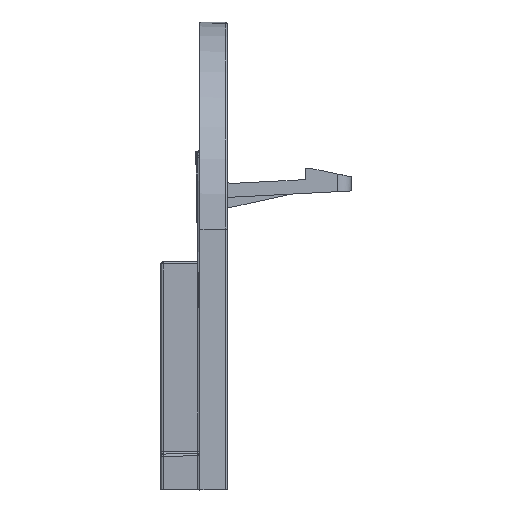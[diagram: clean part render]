
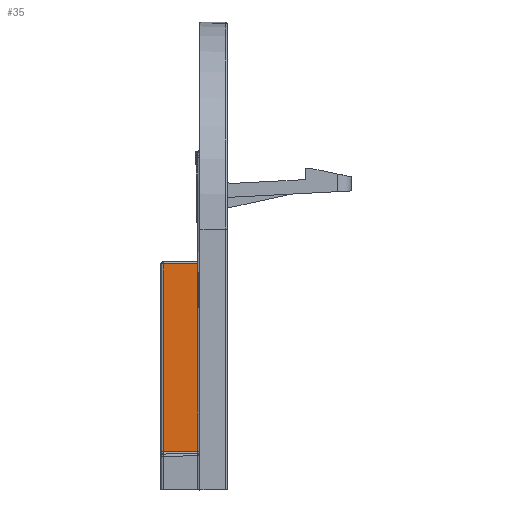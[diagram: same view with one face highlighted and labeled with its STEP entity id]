
A CAD part, front view. The second image highlights one B-rep face of the part: STEP entity #35.
In plain terms, the highlighted planar face has unit normal (-0.018, -1, 0).
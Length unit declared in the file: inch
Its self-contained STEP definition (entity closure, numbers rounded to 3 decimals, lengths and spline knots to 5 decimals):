
#35 = ADVANCED_FACE ( 'NONE', ( #5958 ), #2902, .T. ) ;
#58 = DIRECTION ( 'NONE',  ( 1., -0.017, 0.017 ) ) ;
#100 = CARTESIAN_POINT ( 'NONE',  ( 5.52397, 3.22868, 1.94888 ) ) ;
#189 = VECTOR ( 'NONE', #58, 39.37008 ) ;
#235 = EDGE_CURVE ( 'NONE', #2931, #4322, #3602, .T. ) ;
#525 = LINE ( 'NONE', #2908, #2495 ) ;
#613 = CARTESIAN_POINT ( 'NONE',  ( 5.53372, 3.22851, 0.33448 ) ) ;
#1054 = ORIENTED_EDGE ( 'NONE', *, *, #5762, .T. ) ;
#1596 = EDGE_LOOP ( 'NONE', ( #7434, #1877, #2824, #1054 ) ) ;
#1735 = DIRECTION ( 'NONE',  ( -1., 0.017, -0.017 ) ) ;
#1877 = ORIENTED_EDGE ( 'NONE', *, *, #2634, .T. ) ;
#2183 = VERTEX_POINT ( 'NONE', #4299 ) ;
#2313 = DIRECTION ( 'NONE',  ( -0.017, -1., 0. ) ) ;
#2451 = AXIS2_PLACEMENT_3D ( 'NONE', #5318, #2313, #2979 ) ;
#2495 = VECTOR ( 'NONE', #1735, 39.37008 ) ;
#2634 = EDGE_CURVE ( 'NONE', #4322, #2183, #525, .T. ) ;
#2824 = ORIENTED_EDGE ( 'NONE', *, *, #2867, .T. ) ;
#2867 = EDGE_CURVE ( 'NONE', #2183, #5539, #6981, .T. ) ;
#2902 = PLANE ( 'NONE',  #2451 ) ;
#2908 = CARTESIAN_POINT ( 'NONE',  ( 5.50556, 3.22901, 1.94856 ) ) ;
#2931 = VERTEX_POINT ( 'NONE', #4163 ) ;
#2979 = DIRECTION ( 'NONE',  ( -1., 0.017, 0. ) ) ;
#3602 = LINE ( 'NONE', #6577, #3845 ) ;
#3845 = VECTOR ( 'NONE', #4644, 39.37008 ) ;
#4163 = CARTESIAN_POINT ( 'NONE',  ( 5.52397, 3.22868, 0.33431 ) ) ;
#4189 = LINE ( 'NONE', #613, #189 ) ;
#4299 = CARTESIAN_POINT ( 'NONE',  ( 5.228, 3.23385, 1.94371 ) ) ;
#4322 = VERTEX_POINT ( 'NONE', #100 ) ;
#4644 = DIRECTION ( 'NONE',  ( 0., 0., 1. ) ) ;
#5318 = CARTESIAN_POINT ( 'NONE',  ( 5.54331, 3.22835, -0.21466 ) ) ;
#5539 = VERTEX_POINT ( 'NONE', #6192 ) ;
#5712 = DIRECTION ( 'NONE',  ( 0., 0., -1. ) ) ;
#5762 = EDGE_CURVE ( 'NONE', #5539, #2931, #4189, .T. ) ;
#5958 = FACE_OUTER_BOUND ( 'NONE', #1596, .T. ) ;
#6038 = VECTOR ( 'NONE', #5712, 39.37008 ) ;
#6192 = CARTESIAN_POINT ( 'NONE',  ( 5.228, 3.23385, 0.32915 ) ) ;
#6470 = CARTESIAN_POINT ( 'NONE',  ( 5.228, 3.23385, -0.21466 ) ) ;
#6577 = CARTESIAN_POINT ( 'NONE',  ( 5.52397, 3.22868, 1.9689 ) ) ;
#6981 = LINE ( 'NONE', #6470, #6038 ) ;
#7434 = ORIENTED_EDGE ( 'NONE', *, *, #235, .T. ) ;
